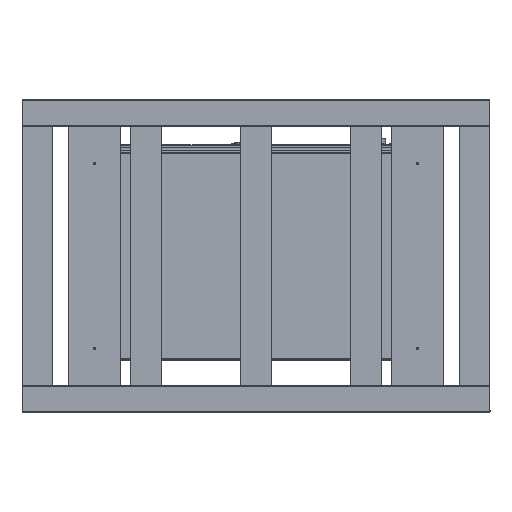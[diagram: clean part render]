
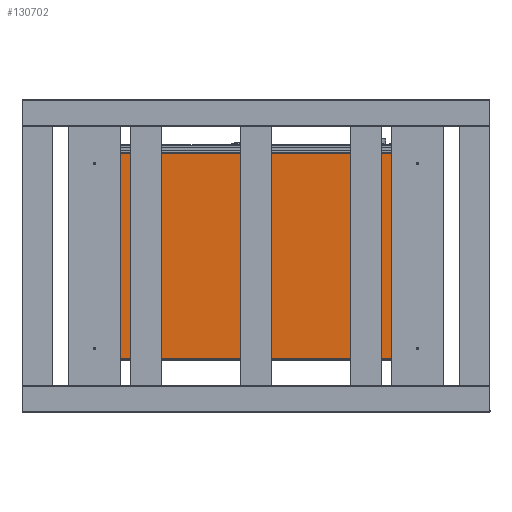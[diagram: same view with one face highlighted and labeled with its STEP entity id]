
A CAD part, front view. The second image highlights one B-rep face of the part: STEP entity #130702.
In plain terms, the highlighted planar face has unit normal (0, -1, 0).
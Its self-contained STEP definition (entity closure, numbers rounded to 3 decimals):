
#352 = DIRECTION ( 'NONE',  ( 0., 0., -1. ) ) ;
#1322 = VECTOR ( 'NONE', #133489, 39.37 ) ;
#6022 = LINE ( 'NONE', #118422, #1322 ) ;
#8772 = CARTESIAN_POINT ( 'NONE',  ( 39.569, -52.152, -0.704 ) ) ;
#11835 = EDGE_LOOP ( 'NONE', ( #165489 ) ) ;
#12615 = VECTOR ( 'NONE', #158872, 39.37 ) ;
#16080 = AXIS2_PLACEMENT_3D ( 'NONE', #132380, #147405, #57936 ) ;
#16518 = CARTESIAN_POINT ( 'NONE',  ( 1.189, -52.152, -1.824 ) ) ;
#18959 = ORIENTED_EDGE ( 'NONE', *, *, #102999, .T. ) ;
#22472 = ORIENTED_EDGE ( 'NONE', *, *, #99168, .T. ) ;
#23329 = VERTEX_POINT ( 'NONE', #16518 ) ;
#23734 = DIRECTION ( 'NONE',  ( 1., 0., 0. ) ) ;
#27783 = PLANE ( 'NONE',  #16080 ) ;
#31731 = CARTESIAN_POINT ( 'NONE',  ( 2.559, -52.152, 20.696 ) ) ;
#31829 = VERTEX_POINT ( 'NONE', #68299 ) ;
#34152 = CARTESIAN_POINT ( 'NONE',  ( 2.559, -52.152, -0.704 ) ) ;
#34620 = FACE_BOUND ( 'NONE', #50740, .T. ) ;
#41780 = DIRECTION ( 'NONE',  ( -1., 0., 0. ) ) ;
#42131 = ORIENTED_EDGE ( 'NONE', *, *, #136589, .T. ) ;
#44039 = FACE_BOUND ( 'NONE', #11835, .T. ) ;
#49024 = ORIENTED_EDGE ( 'NONE', *, *, #105591, .T. ) ;
#50740 = EDGE_LOOP ( 'NONE', ( #53697 ) ) ;
#52422 = LINE ( 'NONE', #54404, #12615 ) ;
#53697 = ORIENTED_EDGE ( 'NONE', *, *, #63821, .T. ) ;
#53957 = VECTOR ( 'NONE', #41780, 39.37 ) ;
#54404 = CARTESIAN_POINT ( 'NONE',  ( 40.689, -52.152, 4.053 ) ) ;
#54975 = DIRECTION ( 'NONE',  ( 0., 1., 0. ) ) ;
#56476 = CARTESIAN_POINT ( 'NONE',  ( 2.309, -52.152, 20.696 ) ) ;
#57936 = DIRECTION ( 'NONE',  ( 1., 0., 0. ) ) ;
#59148 = CARTESIAN_POINT ( 'NONE',  ( 40.689, -52.152, 21.816 ) ) ;
#59741 = EDGE_LOOP ( 'NONE', ( #91760 ) ) ;
#61860 = CARTESIAN_POINT ( 'NONE',  ( 5.121, -52.152, 19.946 ) ) ;
#62189 = EDGE_LOOP ( 'NONE', ( #18959, #49024, #42131, #22472 ) ) ;
#63821 = EDGE_CURVE ( 'NONE', #118600, #118600, #179486, .T. ) ;
#64629 = EDGE_LOOP ( 'NONE', ( #118902 ) ) ;
#64835 = EDGE_CURVE ( 'NONE', #153692, #153692, #190840, .T. ) ;
#65340 = AXIS2_PLACEMENT_3D ( 'NONE', #56476, #160919, #71541 ) ;
#66952 = EDGE_LOOP ( 'NONE', ( #177715 ) ) ;
#68299 = CARTESIAN_POINT ( 'NONE',  ( 39.819, -52.152, 20.696 ) ) ;
#68877 = DIRECTION ( 'NONE',  ( 0., 1., 0. ) ) ;
#69444 = AXIS2_PLACEMENT_3D ( 'NONE', #8772, #113299, #23734 ) ;
#70641 = CIRCLE ( 'NONE', #69444, 0.25 ) ;
#71541 = DIRECTION ( 'NONE',  ( 1., 0., 0. ) ) ;
#74411 = FACE_BOUND ( 'NONE', #66952, .T. ) ;
#79016 = CARTESIAN_POINT ( 'NONE',  ( 4.995, -52.152, 19.946 ) ) ;
#84151 = AXIS2_PLACEMENT_3D ( 'NONE', #79016, #183375, #94037 ) ;
#89736 = CARTESIAN_POINT ( 'NONE',  ( 39.819, -52.152, -0.704 ) ) ;
#89809 = CARTESIAN_POINT ( 'NONE',  ( 1.189, -52.152, 15.873 ) ) ;
#90840 = CARTESIAN_POINT ( 'NONE',  ( 1.189, -52.152, 21.816 ) ) ;
#91760 = ORIENTED_EDGE ( 'NONE', *, *, #155480, .T. ) ;
#94037 = DIRECTION ( 'NONE',  ( 1., 0., 0. ) ) ;
#94585 = CIRCLE ( 'NONE', #177902, 0.25 ) ;
#99168 = EDGE_CURVE ( 'NONE', #180808, #103721, #52422, .T. ) ;
#102999 = EDGE_CURVE ( 'NONE', #103721, #188743, #133409, .T. ) ;
#103039 = VERTEX_POINT ( 'NONE', #34152 ) ;
#103721 = VERTEX_POINT ( 'NONE', #59148 ) ;
#105112 = EDGE_CURVE ( 'NONE', #31829, #31829, #94585, .T. ) ;
#105591 = EDGE_CURVE ( 'NONE', #188743, #23329, #117800, .T. ) ;
#113299 = DIRECTION ( 'NONE',  ( 0., 1., 0. ) ) ;
#114106 = FACE_BOUND ( 'NONE', #59741, .T. ) ;
#117800 = LINE ( 'NONE', #89809, #122492 ) ;
#118422 = CARTESIAN_POINT ( 'NONE',  ( 11.064, -52.152, -1.824 ) ) ;
#118600 = VERTEX_POINT ( 'NONE', #31731 ) ;
#118902 = ORIENTED_EDGE ( 'NONE', *, *, #64835, .T. ) ;
#122492 = VECTOR ( 'NONE', #352, 39.37 ) ;
#126273 = EDGE_CURVE ( 'NONE', #150891, #150891, #70641, .T. ) ;
#130702 = ADVANCED_FACE ( 'NONE', ( #193342, #44039, #114106, #74411, #34620, #188719 ), #27783, .F. ) ;
#132380 = CARTESIAN_POINT ( 'NONE',  ( 2.264, -52.152, 21.791 ) ) ;
#133409 = LINE ( 'NONE', #146271, #53957 ) ;
#133489 = DIRECTION ( 'NONE',  ( 1., 0., 0. ) ) ;
#136589 = EDGE_CURVE ( 'NONE', #23329, #180808, #6022, .T. ) ;
#140750 = CIRCLE ( 'NONE', #183474, 0.25 ) ;
#144464 = CARTESIAN_POINT ( 'NONE',  ( 39.569, -52.152, 20.696 ) ) ;
#146271 = CARTESIAN_POINT ( 'NONE',  ( 40.819, -52.152, 21.816 ) ) ;
#147405 = DIRECTION ( 'NONE',  ( 0., 1., 0. ) ) ;
#150891 = VERTEX_POINT ( 'NONE', #89736 ) ;
#153692 = VERTEX_POINT ( 'NONE', #61860 ) ;
#155480 = EDGE_CURVE ( 'NONE', #103039, #103039, #140750, .T. ) ;
#158317 = CARTESIAN_POINT ( 'NONE',  ( 2.309, -52.152, -0.704 ) ) ;
#158872 = DIRECTION ( 'NONE',  ( 0., 0., 1. ) ) ;
#159464 = DIRECTION ( 'NONE',  ( 1., 0., 0. ) ) ;
#160919 = DIRECTION ( 'NONE',  ( 0., 1., 0. ) ) ;
#165489 = ORIENTED_EDGE ( 'NONE', *, *, #105112, .T. ) ;
#173295 = DIRECTION ( 'NONE',  ( 1., 0., 0. ) ) ;
#177715 = ORIENTED_EDGE ( 'NONE', *, *, #126273, .T. ) ;
#177902 = AXIS2_PLACEMENT_3D ( 'NONE', #144464, #54975, #159464 ) ;
#179486 = CIRCLE ( 'NONE', #65340, 0.25 ) ;
#180808 = VERTEX_POINT ( 'NONE', #185228 ) ;
#183375 = DIRECTION ( 'NONE',  ( 0., 1., 0. ) ) ;
#183474 = AXIS2_PLACEMENT_3D ( 'NONE', #158317, #68877, #173295 ) ;
#185228 = CARTESIAN_POINT ( 'NONE',  ( 40.689, -52.152, -1.824 ) ) ;
#188719 = FACE_BOUND ( 'NONE', #64629, .T. ) ;
#188743 = VERTEX_POINT ( 'NONE', #90840 ) ;
#190840 = CIRCLE ( 'NONE', #84151, 0.126 ) ;
#193342 = FACE_OUTER_BOUND ( 'NONE', #62189, .T. ) ;
